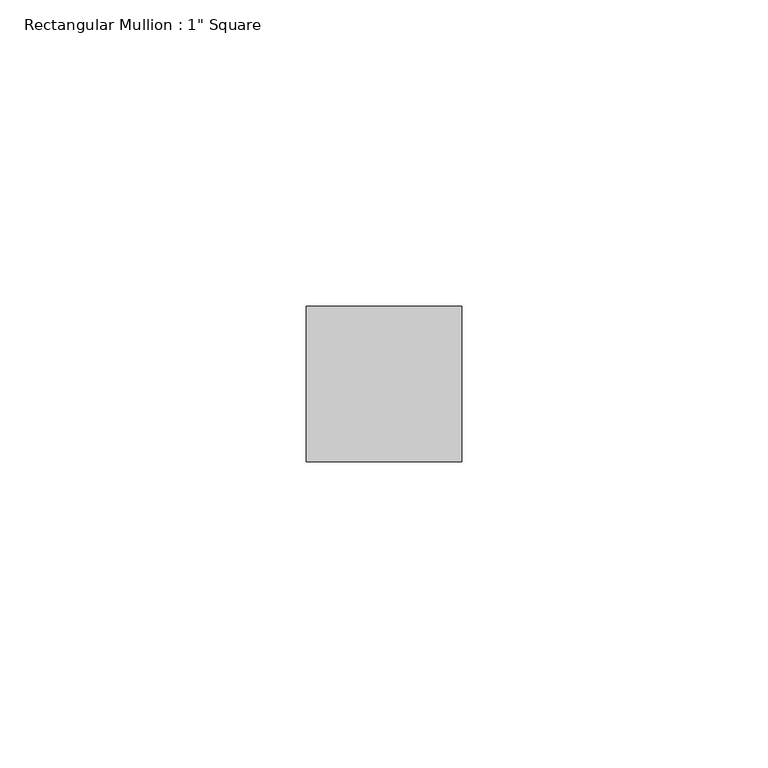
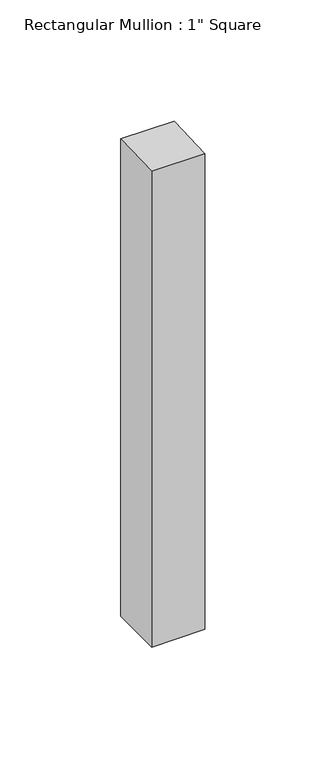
"""IFC4 building model written with IfcOpenShell, lengths in millimetres: member geometry."""

from ifc_helpers import new_model, si_unit, origin, place, context, project, spatial, faceted_brep, source, transform, mapped, element, save


def member_3bb0283d(model_context):
    return source(origin(), model_context, "Body", "Brep", [
        faceted_brep([(0.0, 12.7, -240.5050922), (0.0, -12.7, -240.5050922), (-25.4, -12.7, -240.5050922), (-25.4, 12.7, -240.5050922), (-25.4, 12.7, 0.5611687), (0.0, 12.7, 0.5283913), (-25.4, -12.7, -0.4956139), (0.0, -12.7, -0.5283913)], [[[0, 1, 2, 3]], [[4, 5, 0, 3]], [[6, 4, 3, 2]], [[7, 6, 2, 1]], [[5, 7, 1, 0]], [[5, 4, 6, 7]]]),
    ])


if __name__ == "__main__":
    model = new_model("IFC4")
    model_context = context("Model", 3, world=origin())
    ifc_project = project(units=[si_unit("LENGTHUNIT", "METRE", prefix="MILLI")], contexts=[model_context])
    site = spatial("IfcSite", under=ifc_project)
    building = spatial("IfcBuilding", under=site)
    placement = place(None, origin())
    member_shape = member_3bb0283d(model_context)
    element("IfcMember", 1, ObjectType="Rectangular Mullion : 1\" Square", at=placement, inside=building, context=model_context, shape_type="MappedRepresentation", body=[
        mapped(member_shape, transform((0.0, 0.0, 0.0), x_axis=(1.0, 0.0, 0.0), y_axis=(0.0, 1.0, 0.0), z_axis=(0.0, 0.0, 1.0))),
    ])
    save(model, "model.ifc")
